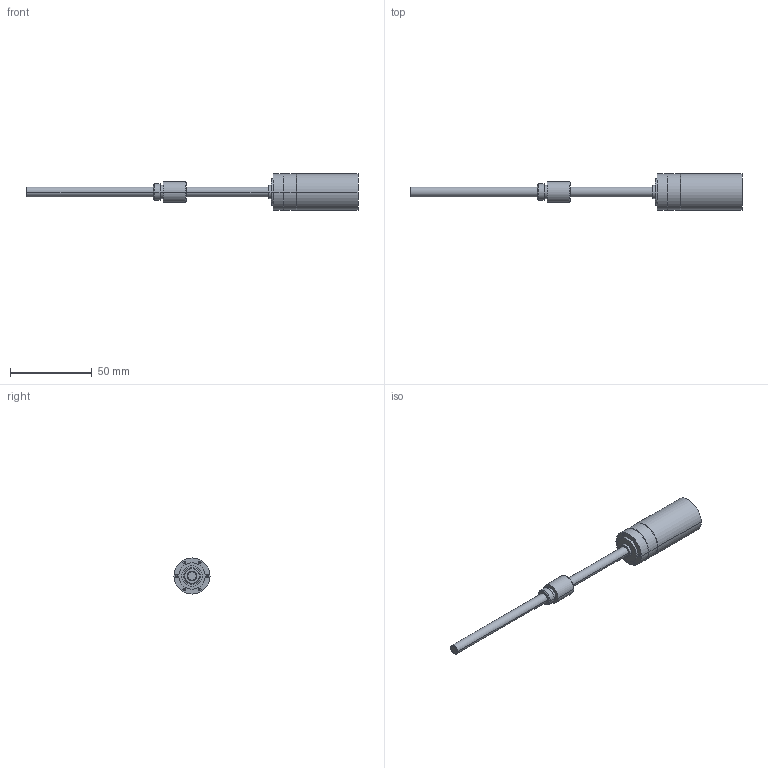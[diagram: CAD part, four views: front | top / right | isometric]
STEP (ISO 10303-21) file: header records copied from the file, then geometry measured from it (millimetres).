
FILE_DESCRIPTION((''),'2;1');
FILE_NAME('363835_GP22S_M-3ST','2016-10-05T',('mmagpetk'),(''),'CREO PARAMETRIC BY PTC INC, 2016050','CREO PARAMETRIC BY PTC INC, 2016050','');
FILE_SCHEMA(('CONFIG_CONTROL_DESIGN'));
Length unit declared in the file: millimetre
Products named in the file (1): 363835_GP22S_M-3ST
Bounding box: 202.6 x 22 x 22 mm (x, y, z)
Volume: 24928.1 mm3; surface area: 8111.3 mm2
Topology: 1 solids, 1 shells, 70 faces, 150 edges, 84 vertices
Faces by surface type: cylinder 34, cone 26, plane 10
Entity records: 2337 total; most frequent: DIRECTION 356, CARTESIAN_POINT 292, ORIENTED_EDGE 276, AXIS2_PLACEMENT_3D 148, PRESENTATION_STYLE_ASSIGNMENT 139, STYLED_ITEM 139, CURVE_STYLE 138, EDGE_CURVE 138
